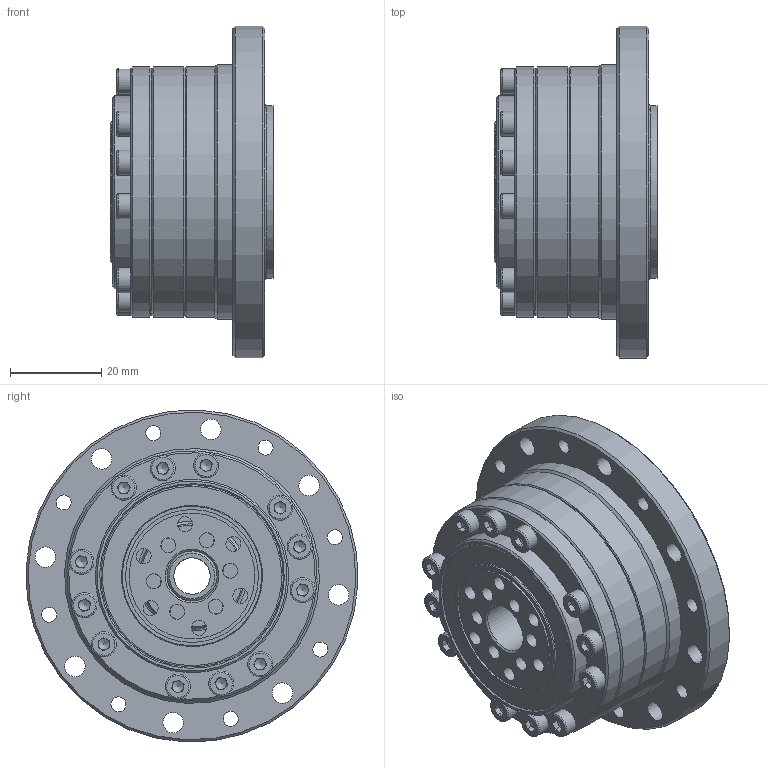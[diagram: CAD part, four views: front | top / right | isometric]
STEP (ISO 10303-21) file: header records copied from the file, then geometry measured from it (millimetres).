
FILE_DESCRIPTION (( 'STEP AP203' ), '1' );
FILE_NAME ('LCSG-14-XXX-C-I-S0.STEP', '2025-01-20T01:49:46', ( '' ), ( '' ), 'SwSTEP 2.0', 'SolidWorks 2023', '' );
FILE_SCHEMA (( 'CONFIG_CONTROL_DESIGN' ));
Length unit declared in the file: metre
Products named in the file (1): LCSG-14-XXX-C-I-S0
Bounding box: 36 x 72.94 x 72.94 mm (x, y, z)
Volume: 66869 mm3; surface area: 53997.5 mm2
Topology: 57 solids, 57 shells, 887 faces, 2061 edges, 1289 vertices
Faces by surface type: plane 460, cylinder 232, cone 109, bspline 86
Full cylindrical faces by diameter (mm): 1.6 x4, 2 x4, 2.4 x4, 2.5 x12, 3 x12, 3.3 x22, 3.5 x20, 3.8 x4, 4 x6, 4.4 x2, 4.5 x20, 5.5 x12, 7 x6, 8 x1, 11 x3, 13 x2, 14 x1, 23 x1, 23.5 x2, 24 x1, 24.1 x1, 25 x1, 25.07 x1, 26 x1, 26.707 x2, 27.6 x2, 29.2 x1, 29.5 x1, 30.5 x1, 31 x1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
Entity records: 30050 total; most frequent: CARTESIAN_POINT 11762, DIRECTION 3858, ORIENTED_EDGE 3148, AXIS2_PLACEMENT_3D 1590, EDGE_CURVE 1574, EDGE_LOOP 1426, VERTEX_POINT 1164, FACE_OUTER_BOUND 1112
